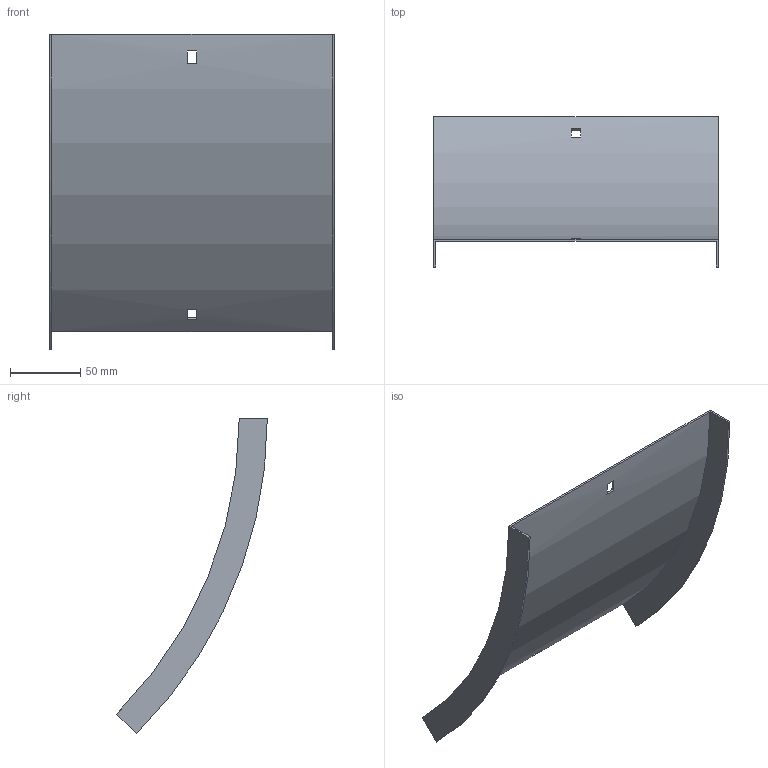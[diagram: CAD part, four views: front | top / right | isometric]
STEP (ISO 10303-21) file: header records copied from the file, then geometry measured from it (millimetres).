
FILE_DESCRIPTION (( 'STEP AP214' ), '1' );
FILE_NAME ('B2X31N3R200X.step', '2025-03-20T09:42:05', ( '' ), ( '' ), 'SwSTEP 2.0', 'SolidWorks 2023', '' );
FILE_SCHEMA (( 'AUTOMOTIVE_DESIGN' ));
Length unit declared in the file: millimetre
Products named in the file (1): B2X31N3R200X
Bounding box: 203 x 107.43 x 225.21 mm (x, y, z)
Volume: 84871.1 mm3; surface area: 114723.3 mm2
Topology: 1 solids, 1 shells, 18 faces, 48 edges, 32 vertices
Faces by surface type: plane 14, cylinder 4
Entity records: 599 total; most frequent: DIRECTION 102, CARTESIAN_POINT 99, ORIENTED_EDGE 96, EDGE_CURVE 48, AXIS2_PLACEMENT_3D 35, VERTEX_POINT 32, VECTOR 32, LINE 32
